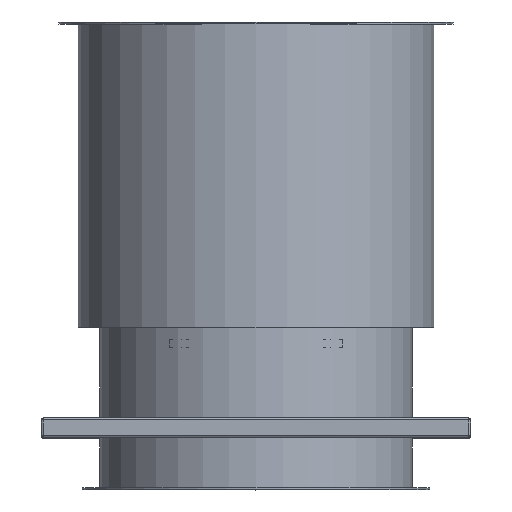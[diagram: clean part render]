
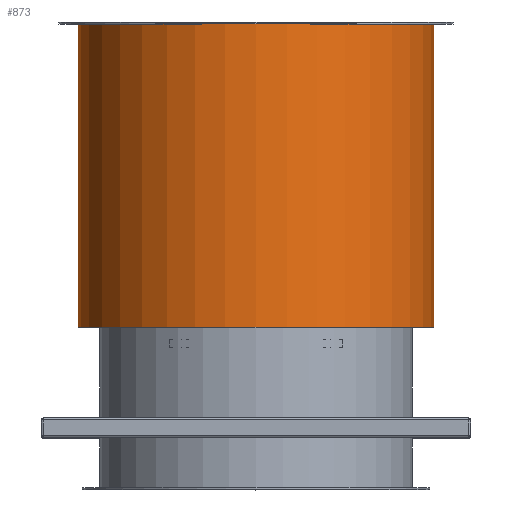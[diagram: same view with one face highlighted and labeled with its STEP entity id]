
A CAD part, top view. The second image highlights one B-rep face of the part: STEP entity #873.
In plain terms, the highlighted cylindrical face has radius 456 mm (diameter 912 mm), a partial arc.
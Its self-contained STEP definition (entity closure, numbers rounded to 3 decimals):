
#873=ADVANCED_FACE('',(#2063),#2064,.T.);
#2063=FACE_OUTER_BOUND('',#3637,.T.);
#2064=CYLINDRICAL_SURFACE('',#3638,456.0);
#3637=EDGE_LOOP('',(#6080,#6081,#6082,#6083));
#3638=AXIS2_PLACEMENT_3D('',#6084,#6085,#6086);
#6080=ORIENTED_EDGE('',*,*,#10679,.F.);
#6081=ORIENTED_EDGE('',*,*,#10680,.T.);
#6082=ORIENTED_EDGE('',*,*,#10681,.F.);
#6083=ORIENTED_EDGE('',*,*,#10682,.F.);
#6084=CARTESIAN_POINT('',(0.0,208.0,0.0));
#6085=DIRECTION('',(0.0,1.0,-0.0));
#6086=DIRECTION('',(1.0,0.0,0.0));
#10679=EDGE_CURVE('',#13385,#13386,#13387,.T.);
#10680=EDGE_CURVE('',#13385,#13388,#13389,.T.);
#10681=EDGE_CURVE('',#13390,#13388,#13391,.T.);
#10682=EDGE_CURVE('',#13386,#13390,#13392,.T.);
#13385=VERTEX_POINT('',#28937);
#13386=VERTEX_POINT('',#28938);
#13387=LINE('',#28939,#28940);
#13388=VERTEX_POINT('',#28941);
#13389=CIRCLE('',#28942,456.0);
#13390=VERTEX_POINT('',#28943);
#13391=LINE('',#28944,#28945);
#13392=CIRCLE('',#28946,456.0);
#28937=CARTESIAN_POINT('',(456.0,594.0,0.));
#28938=CARTESIAN_POINT('',(456.0,-183.0,0.0));
#28939=CARTESIAN_POINT('',(456.0,208.0,0.));
#28940=VECTOR('',#44984,1.0);
#28941=CARTESIAN_POINT('',(-456.0,594.0,0.));
#28942=AXIS2_PLACEMENT_3D('',#44985,#44986,#44987);
#28943=CARTESIAN_POINT('',(-456.0,-183.0,0.));
#28944=CARTESIAN_POINT('',(-456.0,208.0,0.));
#28945=VECTOR('',#44988,1.0);
#28946=AXIS2_PLACEMENT_3D('',#44989,#44990,#44991);
#44984=DIRECTION('',(0.0,-1.0,0.0));
#44985=CARTESIAN_POINT('',(0.0,594.0,0.0));
#44986=DIRECTION('',(0.0,-1.0,0.0));
#44987=DIRECTION('',(1.0,0.0,0.0));
#44988=DIRECTION('',(-0.0,1.0,-0.0));
#44989=CARTESIAN_POINT('',(0.0,-183.0,0.0));
#44990=DIRECTION('',(0.0,-1.0,0.0));
#44991=DIRECTION('',(1.0,0.0,0.0));
